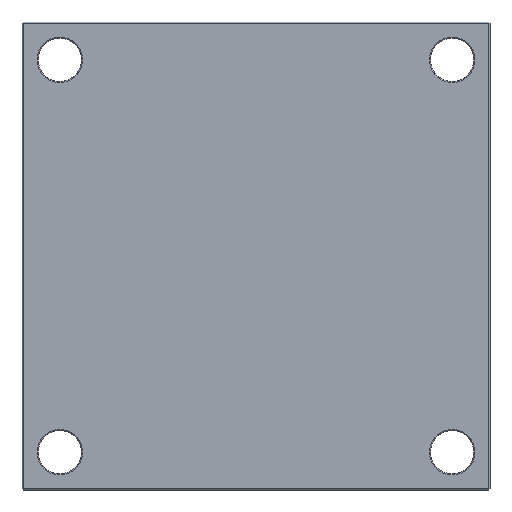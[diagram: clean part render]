
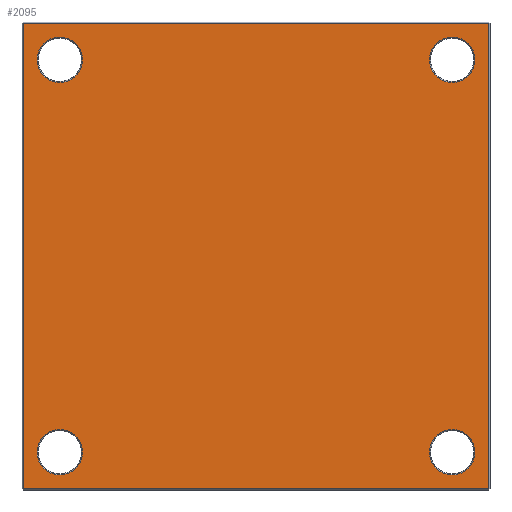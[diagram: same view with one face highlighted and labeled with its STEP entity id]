
A CAD part, front view. The second image highlights one B-rep face of the part: STEP entity #2095.
In plain terms, the highlighted planar face has unit normal (0, -1, 0).
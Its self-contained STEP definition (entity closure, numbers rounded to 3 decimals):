
#11 = EDGE_CURVE ( 'NONE', #2035, #1915, #887, .T. ) ;
#29 = VERTEX_POINT ( 'NONE', #2164 ) ;
#34 = DIRECTION ( 'NONE',  ( 0., 1., 0. ) ) ;
#67 = EDGE_CURVE ( 'NONE', #775, #1703, #1002, .T. ) ;
#95 = CIRCLE ( 'NONE', #1501, 21.65 ) ;
#100 = EDGE_CURVE ( 'NONE', #1703, #775, #473, .T. ) ;
#169 = LINE ( 'NONE', #941, #948 ) ;
#189 = CARTESIAN_POINT ( 'NONE',  ( 222., 0., -222. ) ) ;
#328 = CARTESIAN_POINT ( 'NONE',  ( -222., 0., -222. ) ) ;
#369 = EDGE_LOOP ( 'NONE', ( #1783, #2152 ) ) ;
#396 = EDGE_CURVE ( 'NONE', #1054, #518, #2057, .T. ) ;
#400 = EDGE_CURVE ( 'NONE', #571, #1759, #1019, .T. ) ;
#418 = CARTESIAN_POINT ( 'NONE',  ( -187., 0., -187. ) ) ;
#436 = AXIS2_PLACEMENT_3D ( 'NONE', #1873, #1291, #1196 ) ;
#451 = DIRECTION ( 'NONE',  ( 0., 0., 1. ) ) ;
#455 = CARTESIAN_POINT ( 'NONE',  ( 187., 0., 165.35 ) ) ;
#465 = DIRECTION ( 'NONE',  ( 0., 1., 0. ) ) ;
#471 = CARTESIAN_POINT ( 'NONE',  ( 187., 0., -187. ) ) ;
#473 = CIRCLE ( 'NONE', #1958, 21.65 ) ;
#497 = VERTEX_POINT ( 'NONE', #328 ) ;
#518 = VERTEX_POINT ( 'NONE', #2019 ) ;
#527 = FACE_BOUND ( 'NONE', #2154, .T. ) ;
#565 = EDGE_CURVE ( 'NONE', #1915, #2035, #1657, .T. ) ;
#571 = VERTEX_POINT ( 'NONE', #455 ) ;
#614 = CARTESIAN_POINT ( 'NONE',  ( 187., 0., -165.35 ) ) ;
#620 = EDGE_LOOP ( 'NONE', ( #1120, #1112 ) ) ;
#668 = VERTEX_POINT ( 'NONE', #1638 ) ;
#711 = EDGE_CURVE ( 'NONE', #497, #1054, #998, .T. ) ;
#713 = EDGE_CURVE ( 'NONE', #2090, #497, #169, .T. ) ;
#721 = EDGE_CURVE ( 'NONE', #518, #2090, #1590, .T. ) ;
#775 = VERTEX_POINT ( 'NONE', #1427 ) ;
#793 = CIRCLE ( 'NONE', #1538, 21.65 ) ;
#854 = CARTESIAN_POINT ( 'NONE',  ( 0., 0., -222. ) ) ;
#887 = CIRCLE ( 'NONE', #2165, 21.65 ) ;
#898 = DIRECTION ( 'NONE',  ( 1., 0., 0. ) ) ;
#903 = FACE_BOUND ( 'NONE', #369, .T. ) ;
#924 = DIRECTION ( 'NONE',  ( 0., 0., 1. ) ) ;
#927 = CARTESIAN_POINT ( 'NONE',  ( 187., 0., 187. ) ) ;
#941 = CARTESIAN_POINT ( 'NONE',  ( -222., 0., 0. ) ) ;
#943 = DIRECTION ( 'NONE',  ( 0., 1., 0. ) ) ;
#948 = VECTOR ( 'NONE', #951, 1000. ) ;
#951 = DIRECTION ( 'NONE',  ( 0., 0., -1. ) ) ;
#952 = DIRECTION ( 'NONE',  ( 0., 0., 1. ) ) ;
#954 = FACE_BOUND ( 'NONE', #620, .T. ) ;
#961 = CARTESIAN_POINT ( 'NONE',  ( -187., 0., 187. ) ) ;
#998 = LINE ( 'NONE', #854, #1919 ) ;
#1002 = CIRCLE ( 'NONE', #1967, 21.65 ) ;
#1017 = CARTESIAN_POINT ( 'NONE',  ( 187., 0., 208.65 ) ) ;
#1019 = CIRCLE ( 'NONE', #1792, 21.65 ) ;
#1028 = DIRECTION ( 'NONE',  ( 0., 1., 0. ) ) ;
#1054 = VERTEX_POINT ( 'NONE', #189 ) ;
#1093 = EDGE_CURVE ( 'NONE', #29, #668, #793, .T. ) ;
#1112 = ORIENTED_EDGE ( 'NONE', *, *, #1154, .T. ) ;
#1117 = ORIENTED_EDGE ( 'NONE', *, *, #67, .T. ) ;
#1120 = ORIENTED_EDGE ( 'NONE', *, *, #400, .T. ) ;
#1125 = CARTESIAN_POINT ( 'NONE',  ( 187., 0., -208.65 ) ) ;
#1140 = ORIENTED_EDGE ( 'NONE', *, *, #100, .T. ) ;
#1154 = EDGE_CURVE ( 'NONE', #1759, #571, #1900, .T. ) ;
#1156 = EDGE_CURVE ( 'NONE', #668, #29, #95, .T. ) ;
#1196 = DIRECTION ( 'NONE',  ( 0., 0., 1. ) ) ;
#1204 = CARTESIAN_POINT ( 'NONE',  ( -187., 0., 208.65 ) ) ;
#1221 = ORIENTED_EDGE ( 'NONE', *, *, #711, .T. ) ;
#1224 = ORIENTED_EDGE ( 'NONE', *, *, #713, .T. ) ;
#1242 = DIRECTION ( 'NONE',  ( 0., 0., 1. ) ) ;
#1248 = ORIENTED_EDGE ( 'NONE', *, *, #396, .T. ) ;
#1266 = DIRECTION ( 'NONE',  ( 0., 1., 0. ) ) ;
#1270 = DIRECTION ( 'NONE',  ( 0., 0., 1. ) ) ;
#1272 = CARTESIAN_POINT ( 'NONE',  ( 187., 0., -187. ) ) ;
#1273 = DIRECTION ( 'NONE',  ( 0., 1., 0. ) ) ;
#1278 = ORIENTED_EDGE ( 'NONE', *, *, #565, .T. ) ;
#1280 = ORIENTED_EDGE ( 'NONE', *, *, #721, .T. ) ;
#1282 = DIRECTION ( 'NONE',  ( -1., 0., 0. ) ) ;
#1284 = CARTESIAN_POINT ( 'NONE',  ( -187., 0., 187. ) ) ;
#1291 = DIRECTION ( 'NONE',  ( 0., 1., 0. ) ) ;
#1296 = FACE_BOUND ( 'NONE', #1901, .T. ) ;
#1372 = PLANE ( 'NONE',  #436 ) ;
#1427 = CARTESIAN_POINT ( 'NONE',  ( -187., 0., 165.35 ) ) ;
#1501 = AXIS2_PLACEMENT_3D ( 'NONE', #2098, #1955, #2067 ) ;
#1506 = AXIS2_PLACEMENT_3D ( 'NONE', #927, #1266, #2161 ) ;
#1511 = VECTOR ( 'NONE', #1878, 1000. ) ;
#1538 = AXIS2_PLACEMENT_3D ( 'NONE', #418, #1028, #952 ) ;
#1590 = LINE ( 'NONE', #2182, #1857 ) ;
#1638 = CARTESIAN_POINT ( 'NONE',  ( -187., 0., -165.35 ) ) ;
#1657 = CIRCLE ( 'NONE', #1757, 21.65 ) ;
#1703 = VERTEX_POINT ( 'NONE', #1204 ) ;
#1752 = CARTESIAN_POINT ( 'NONE',  ( -222., 0., 222. ) ) ;
#1757 = AXIS2_PLACEMENT_3D ( 'NONE', #1272, #34, #1242 ) ;
#1759 = VERTEX_POINT ( 'NONE', #1017 ) ;
#1783 = ORIENTED_EDGE ( 'NONE', *, *, #1093, .T. ) ;
#1792 = AXIS2_PLACEMENT_3D ( 'NONE', #1997, #2002, #2005 ) ;
#1797 = FACE_OUTER_BOUND ( 'NONE', #1867, .T. ) ;
#1857 = VECTOR ( 'NONE', #1282, 1000. ) ;
#1867 = EDGE_LOOP ( 'NONE', ( #1248, #1280, #1224, #1221 ) ) ;
#1873 = CARTESIAN_POINT ( 'NONE',  ( 0., 0., 0. ) ) ;
#1878 = DIRECTION ( 'NONE',  ( 0., 0., 1. ) ) ;
#1896 = ORIENTED_EDGE ( 'NONE', *, *, #11, .T. ) ;
#1900 = CIRCLE ( 'NONE', #1506, 21.65 ) ;
#1901 = EDGE_LOOP ( 'NONE', ( #1896, #1278 ) ) ;
#1915 = VERTEX_POINT ( 'NONE', #614 ) ;
#1919 = VECTOR ( 'NONE', #898, 1000. ) ;
#1937 = CARTESIAN_POINT ( 'NONE',  ( 222., 0., 0. ) ) ;
#1955 = DIRECTION ( 'NONE',  ( 0., 1., 0. ) ) ;
#1958 = AXIS2_PLACEMENT_3D ( 'NONE', #961, #943, #924 ) ;
#1967 = AXIS2_PLACEMENT_3D ( 'NONE', #1284, #1273, #1270 ) ;
#1997 = CARTESIAN_POINT ( 'NONE',  ( 187., 0., 187. ) ) ;
#2002 = DIRECTION ( 'NONE',  ( 0., 1., 0. ) ) ;
#2005 = DIRECTION ( 'NONE',  ( 0., 0., 1. ) ) ;
#2019 = CARTESIAN_POINT ( 'NONE',  ( 222., 0., 222. ) ) ;
#2035 = VERTEX_POINT ( 'NONE', #1125 ) ;
#2057 = LINE ( 'NONE', #1937, #1511 ) ;
#2067 = DIRECTION ( 'NONE',  ( 0., 0., 1. ) ) ;
#2090 = VERTEX_POINT ( 'NONE', #1752 ) ;
#2095 = ADVANCED_FACE ( 'NONE', ( #903, #1296, #954, #527, #1797 ), #1372, .F. ) ;
#2098 = CARTESIAN_POINT ( 'NONE',  ( -187., 0., -187. ) ) ;
#2152 = ORIENTED_EDGE ( 'NONE', *, *, #1156, .T. ) ;
#2154 = EDGE_LOOP ( 'NONE', ( #1117, #1140 ) ) ;
#2161 = DIRECTION ( 'NONE',  ( 0., 0., 1. ) ) ;
#2164 = CARTESIAN_POINT ( 'NONE',  ( -187., 0., -208.65 ) ) ;
#2165 = AXIS2_PLACEMENT_3D ( 'NONE', #471, #465, #451 ) ;
#2182 = CARTESIAN_POINT ( 'NONE',  ( 0., 0., 222. ) ) ;
